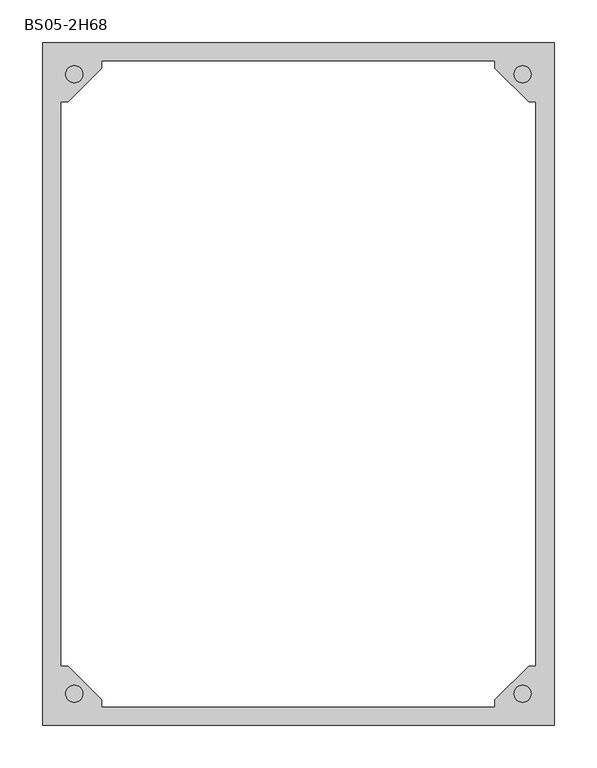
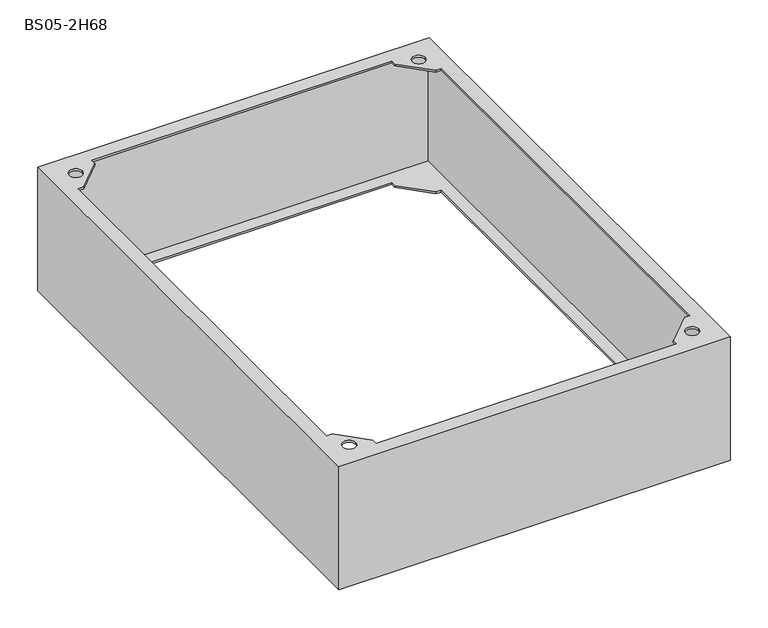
"""IFC4 building model written with IfcOpenShell, lengths in millimetres: proxy geometry, Цоколь для напольных шкафов : BS05-2H68."""

from ifc_helpers import new_model, si_unit, frame, origin, place, context, project, spatial, polyline, circle_curve, source, transform, mapped, element, save
from ifc_brep_helpers import plane_surface, revolved_surface, advanced_brep


def bs05_2h68_96ca8588(model_context):
    return source(origin(), model_context, "Body", "AdvancedBrep", [
        advanced_brep(
        [(300.0, -400.0, 200.0), (300.0, -400.0, 197.0), (300.0, -400.0, 3.0), (300.0, -400.0, 0.0), (300.0, 400.0, 0.0), (300.0, 400.0, 3.0), (300.0, 400.0, 197.0), (300.0, 400.0, 200.0), (278.0, 330.0, 0.0), (278.0, -330.0, 0.0), (278.0, -330.0, 3.0), (278.0, 330.0, 3.0), (297.0, 397.0, 197.0), (297.0, 397.0, 3.0), (297.0, -397.0, 3.0), (297.0, -397.0, 197.0), (278.0, 330.0, 197.0), (278.0, -330.0, 197.0), (278.0, -330.0, 200.0), (278.0, 330.0, 200.0), (-300.0, -400.0, 200.0), (-300.0, -400.0, 197.0), (-300.0, -400.0, 3.0), (-300.0, -400.0, 0.0), (230.0, -378.0, 0.0), (-230.0, -378.0, 0.0), (-230.0, -378.0, 3.0), (230.0, -378.0, 3.0), (-297.0, -397.0, 3.0), (-297.0, -397.0, 197.0), (230.0, -378.0, 197.0), (-230.0, -378.0, 197.0), (-230.0, -378.0, 200.0), (230.0, -378.0, 200.0), (-300.0, 400.0, 200.0), (-300.0, 400.0, 197.0), (-300.0, 400.0, 3.0), (-300.0, 400.0, 0.0), (-278.0, -330.0, 0.0), (-278.0, 330.0, 0.0), (-278.0, 330.0, 3.0), (-278.0, -330.0, 3.0), (-297.0, 397.0, 3.0), (-297.0, 397.0, 197.0), (-278.0, -330.0, 197.0), (-278.0, 330.0, 197.0), (-278.0, 330.0, 200.0), (-278.0, -330.0, 200.0), (-230.0, -370.0, 200.0), (-270.0, -330.0, 200.0), (-270.0, 330.0, 200.0), (-230.0, 370.0, 200.0), (-230.0, 378.0, 200.0), (230.0, 378.0, 200.0), (230.0, 370.0, 200.0), (270.0, 330.0, 200.0), (270.0, -330.0, 200.0), (230.0, -370.0, 200.0), (-252.9289322, -362.9289322, 200.0), (-272.9289322, -362.9289322, 200.0), (272.9289322, -362.9289322, 200.0), (252.9289322, -362.9289322, 200.0), (-252.9289322, 362.9289322, 200.0), (-272.9289322, 362.9289322, 200.0), (272.9289322, 362.9289322, 200.0), (252.9289322, 362.9289322, 200.0), (270.0, 330.0, 0.0), (230.0, 370.0, 0.0), (230.0, 378.0, 0.0), (-230.0, 378.0, 0.0), (-230.0, 370.0, 0.0), (-270.0, 330.0, 0.0), (-270.0, -330.0, 0.0), (-230.0, -370.0, 0.0), (230.0, -370.0, 0.0), (270.0, -330.0, 0.0), (230.0, 378.0, 3.0), (-230.0, 378.0, 3.0), (270.0, -330.0, 3.0), (230.0, -370.0, 3.0), (-230.0, -370.0, 3.0), (-270.0, -330.0, 3.0), (-270.0, 330.0, 3.0), (-230.0, 370.0, 3.0), (230.0, 370.0, 3.0), (270.0, 330.0, 3.0), (-270.0, -330.0, 197.0), (-230.0, -370.0, 197.0), (230.0, -370.0, 197.0), (270.0, -330.0, 197.0), (270.0, 330.0, 197.0), (230.0, 370.0, 197.0), (230.0, 378.0, 197.0), (-230.0, 378.0, 197.0), (-230.0, 370.0, 197.0), (-270.0, 330.0, 197.0), (-252.9289322, -362.9289322, 197.0), (-272.9289322, -362.9289322, 197.0), (272.9289322, -362.9289322, 197.0), (252.9289322, -362.9289322, 197.0), (-252.9289322, 362.9289322, 197.0), (-272.9289322, 362.9289322, 197.0), (272.9289322, 362.9289322, 197.0), (252.9289322, 362.9289322, 197.0)],
        [
            (0, 1),
            (1, 2),
            (2, 3),
            (3, 4),
            (4, 5),
            (5, 6),
            (6, 7),
            (7, 0),
            (8, 9),
            (9, 10),
            (10, 11),
            (11, 8),
            (12, 13),
            (13, 14),
            (14, 15),
            (15, 12),
            (16, 17),
            (17, 18),
            (18, 19),
            (19, 16),
            (0, 20),
            (20, 21),
            (21, 22),
            (22, 23),
            (23, 3),
            (24, 25),
            (25, 26),
            (26, 27),
            (27, 24),
            (14, 28),
            (28, 29),
            (29, 15),
            (30, 31),
            (31, 32),
            (32, 33),
            (33, 30),
            (20, 34),
            (34, 35),
            (35, 36),
            (36, 37),
            (37, 23),
            (38, 39),
            (39, 40),
            (40, 41),
            (41, 38),
            (28, 42),
            (42, 43),
            (43, 29),
            (44, 45),
            (45, 46),
            (46, 47),
            (47, 44),
            (7, 34),
            (48, 49),
            (49, 47),
            (46, 50),
            (50, 51),
            (51, 52),
            (52, 53),
            (53, 54),
            (54, 55),
            (55, 19),
            (18, 56),
            (56, 57),
            (57, 33),
            (32, 48),
            (58, 59, circle_curve(frame((-262.9289322, -362.9289322, 200.0), z_axis=(0.0, 0.0, -1.0), x_axis=(-1.0, 0.0, 0.0)), 10.0)),
            (59, 58, circle_curve(frame((-262.9289322, -362.9289322, 200.0), z_axis=(0.0, 0.0, -1.0), x_axis=(-1.0, 0.0, 0.0)), 10.0)),
            (60, 61, circle_curve(frame((262.9289322, -362.9289322, 200.0), z_axis=(0.0, 0.0, -1.0), x_axis=(-1.0, 0.0, 0.0)), 10.0)),
            (61, 60, circle_curve(frame((262.9289322, -362.9289322, 200.0), z_axis=(0.0, 0.0, -1.0), x_axis=(-1.0, 0.0, 0.0)), 10.0)),
            (62, 63, circle_curve(frame((-262.9289322, 362.9289322, 200.0), z_axis=(0.0, 0.0, -1.0), x_axis=(-1.0, 0.0, 0.0)), 10.0)),
            (63, 62, circle_curve(frame((-262.9289322, 362.9289322, 200.0), z_axis=(0.0, 0.0, -1.0), x_axis=(-1.0, 0.0, 0.0)), 10.0)),
            (64, 65, circle_curve(frame((262.9289322, 362.9289322, 200.0), z_axis=(0.0, 0.0, -1.0), x_axis=(-1.0, 0.0, 0.0)), 10.0)),
            (65, 64, circle_curve(frame((262.9289322, 362.9289322, 200.0), z_axis=(0.0, 0.0, -1.0), x_axis=(-1.0, 0.0, 0.0)), 10.0)),
            (4, 37),
            (8, 66),
            (66, 67),
            (67, 68),
            (68, 69),
            (69, 70),
            (70, 71),
            (71, 39),
            (38, 72),
            (72, 73),
            (73, 25),
            (24, 74),
            (74, 75),
            (75, 9),
            (68, 76),
            (76, 77),
            (77, 69),
            (13, 42),
            (10, 78),
            (78, 79),
            (79, 27),
            (26, 80),
            (80, 81),
            (81, 41),
            (40, 82),
            (82, 83),
            (83, 77),
            (76, 84),
            (84, 85),
            (85, 11),
            (12, 43),
            (86, 87),
            (87, 31),
            (30, 88),
            (88, 89),
            (89, 17),
            (16, 90),
            (90, 91),
            (91, 92),
            (92, 93),
            (93, 94),
            (94, 95),
            (95, 45),
            (44, 86),
            (96, 97, circle_curve(frame((-262.9289322, -362.9289322, 197.0), z_axis=(0.0, 0.0, 1.0), x_axis=(-1.0, 0.0, 0.0)), 10.0)),
            (97, 96, circle_curve(frame((-262.9289322, -362.9289322, 197.0), z_axis=(0.0, 0.0, 1.0), x_axis=(-1.0, 0.0, 0.0)), 10.0)),
            (98, 99, circle_curve(frame((262.9289322, -362.9289322, 197.0), z_axis=(0.0, 0.0, 1.0), x_axis=(-1.0, 0.0, 0.0)), 10.0)),
            (99, 98, circle_curve(frame((262.9289322, -362.9289322, 197.0), z_axis=(0.0, 0.0, 1.0), x_axis=(-1.0, 0.0, 0.0)), 10.0)),
            (100, 101, circle_curve(frame((-262.9289322, 362.9289322, 197.0), z_axis=(0.0, 0.0, 1.0), x_axis=(-1.0, 0.0, 0.0)), 10.0)),
            (101, 100, circle_curve(frame((-262.9289322, 362.9289322, 197.0), z_axis=(0.0, 0.0, 1.0), x_axis=(-1.0, 0.0, 0.0)), 10.0)),
            (102, 103, circle_curve(frame((262.9289322, 362.9289322, 197.0), z_axis=(0.0, 0.0, 1.0), x_axis=(-1.0, 0.0, 0.0)), 10.0)),
            (103, 102, circle_curve(frame((262.9289322, 362.9289322, 197.0), z_axis=(0.0, 0.0, 1.0), x_axis=(-1.0, 0.0, 0.0)), 10.0)),
            (52, 93),
            (92, 53),
            (87, 48),
            (86, 49),
            (89, 56),
            (88, 57),
            (95, 50),
            (94, 51),
            (91, 54),
            (90, 55),
            (58, 96),
            (97, 59),
            (60, 98),
            (99, 61),
            (62, 100),
            (101, 63),
            (64, 102),
            (103, 65),
            (73, 80),
            (72, 81),
            (75, 78),
            (74, 79),
            (71, 82),
            (70, 83),
            (67, 84),
            (66, 85),
        ],
        [
            plane_surface(frame((300.0, 400.0, 200.0), z_axis=(1.0, 0.0, 0.0), x_axis=(0.0, -1.0, 0.0))),
            plane_surface(frame((278.0, 378.0, 0.0), z_axis=(-1.0, 0.0, 0.0), x_axis=(0.0, -1.0, 0.0))),
            plane_surface(frame((297.0, 397.0, 3.0), z_axis=(-1.0, 0.0, 0.0), x_axis=(0.0, -1.0, 0.0))),
            plane_surface(frame((278.0, 378.0, 197.0), z_axis=(-1.0, 0.0, 0.0), x_axis=(0.0, -1.0, 0.0))),
            plane_surface(frame((300.0, -400.0, 200.0), z_axis=(0.0, -1.0, 0.0), x_axis=(-1.0, 0.0, 0.0))),
            plane_surface(frame((278.0, -378.0, 0.0), z_axis=(0.0, 1.0, 0.0), x_axis=(-1.0, 0.0, 0.0))),
            plane_surface(frame((297.0, -397.0, 3.0), z_axis=(0.0, 1.0, 0.0), x_axis=(-1.0, 0.0, 0.0))),
            plane_surface(frame((278.0, -378.0, 197.0), z_axis=(0.0, 1.0, 0.0), x_axis=(-1.0, 0.0, 0.0))),
            plane_surface(frame((-300.0, -400.0, 200.0), z_axis=(-1.0, 0.0, 0.0), x_axis=(0.0, 1.0, 0.0))),
            plane_surface(frame((-278.0, -378.0, 0.0), z_axis=(1.0, 0.0, 0.0), x_axis=(0.0, 1.0, 0.0))),
            plane_surface(frame((-297.0, -397.0, 3.0), z_axis=(1.0, 0.0, 0.0), x_axis=(0.0, 1.0, 0.0))),
            plane_surface(frame((-278.0, -378.0, 197.0), z_axis=(1.0, 0.0, 0.0), x_axis=(0.0, 1.0, 0.0))),
            plane_surface(frame((-278.0, 378.0, 200.0), z_axis=(0.0, 0.0, 1.0), x_axis=(1.0, 0.0, 0.0))),
            plane_surface(frame((-300.0, 400.0, 200.0), z_axis=(0.0, 1.0, 0.0), x_axis=(1.0, 0.0, 0.0))),
            plane_surface(frame((-300.0, 400.0, 0.0), z_axis=(0.0, 0.0, -1.0), x_axis=(1.0, 0.0, 0.0))),
            plane_surface(frame((-278.0, 378.0, 0.0), z_axis=(0.0, -1.0, 0.0), x_axis=(1.0, 0.0, 0.0))),
            plane_surface(frame((-278.0, 378.0, 3.0), z_axis=(0.0, 0.0, 1.0), x_axis=(1.0, 0.0, 0.0))),
            plane_surface(frame((-297.0, 397.0, 3.0), z_axis=(0.0, -1.0, 0.0), x_axis=(1.0, 0.0, 0.0))),
            plane_surface(frame((-297.0, 397.0, 197.0), z_axis=(0.0, 0.0, -1.0), x_axis=(1.0, 0.0, 0.0))),
            plane_surface(frame((-278.0, 378.0, 197.0), z_axis=(0.0, -1.0, 0.0), x_axis=(1.0, 0.0, 0.0))),
            plane_surface(frame((-230.0, -400.0, 200.0), z_axis=(1.0, 0.0, 0.0), x_axis=(0.0, 0.0, -1.0))),
            plane_surface(frame((-230.0, -370.0, 200.0), z_axis=(0.7071067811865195, 0.7071067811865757, 0.0), x_axis=(0.0, 0.0, -1.0))),
            plane_surface(frame((-270.0, -330.0, 200.0), z_axis=(0.0, 1.0, 0.0), x_axis=(0.0, 0.0, -1.0))),
            plane_surface(frame((300.0, -330.0, 200.0), z_axis=(0.0, 1.0, 0.0), x_axis=(0.0, 0.0, -1.0))),
            plane_surface(frame((270.0, -330.0, 200.0), z_axis=(-0.7071067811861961, 0.707106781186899, 0.0), x_axis=(0.0, 0.0, -1.0))),
            plane_surface(frame((230.0, -370.0, 200.0), z_axis=(-1.0, 0.0, 0.0), x_axis=(0.0, 0.0, -1.0))),
            plane_surface(frame((-300.0, 330.0, 200.0), z_axis=(0.0, -1.0, 0.0), x_axis=(0.0, 0.0, -1.0))),
            plane_surface(frame((-270.0, 330.0, 200.0), z_axis=(0.7071067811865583, -0.7071067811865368, 0.0), x_axis=(0.0, 0.0, -1.0))),
            plane_surface(frame((-230.0, 370.0, 200.0), z_axis=(1.0, 0.0, 0.0), x_axis=(0.0, 0.0, -1.0))),
            plane_surface(frame((230.0, 400.0, 200.0), z_axis=(-1.0, 0.0, 0.0), x_axis=(0.0, 0.0, -1.0))),
            plane_surface(frame((230.0, 370.0, 200.0), z_axis=(-0.7071067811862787, -0.7071067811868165, 0.0), x_axis=(0.0, 0.0, -1.0))),
            plane_surface(frame((270.0, 330.0, 200.0), z_axis=(0.0, -1.0, 0.0), x_axis=(0.0, 0.0, -1.0))),
            revolved_surface(polyline([(-272.9289322, -362.9289322, 197.0), (-272.9289322, -362.9289322, 200.0)]), (-262.9289322, -362.9289322, 200.0), (0.0, 0.0, -1.0)),
            revolved_surface(polyline([(252.92893220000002, -362.9289322, 197.0), (252.92893220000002, -362.9289322, 200.0)]), (262.9289322, -362.9289322, 200.0), (0.0, 0.0, -1.0)),
            revolved_surface(polyline([(-272.9289322, 362.9289322, 197.0), (-272.9289322, 362.9289322, 200.0)]), (-262.9289322, 362.9289322, 200.0), (0.0, 0.0, -1.0)),
            revolved_surface(polyline([(252.92893220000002, 362.9289322, 197.0), (252.92893220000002, 362.9289322, 200.0)]), (262.9289322, 362.9289322, 200.0), (0.0, 0.0, -1.0)),
            plane_surface(frame((-230.0, -400.0, 3.0), z_axis=(1.0, 0.0, 0.0), x_axis=(0.0, 0.0, -1.0))),
            plane_surface(frame((-230.0, -370.0, 3.0), z_axis=(0.7071067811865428, 0.7071067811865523, 0.0), x_axis=(0.0, 0.0, -1.0))),
            plane_surface(frame((-270.0, -330.0, 3.0), z_axis=(0.0, 1.0, 0.0), x_axis=(0.0, 0.0, -1.0))),
            plane_surface(frame((300.0, -330.0, 3.0), z_axis=(0.0, 1.0, 0.0), x_axis=(0.0, 0.0, -1.0))),
            plane_surface(frame((270.0, -330.0, 3.0), z_axis=(-0.7071067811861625, 0.7071067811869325, 0.0), x_axis=(0.0, 0.0, -1.0))),
            plane_surface(frame((230.0, -370.0, 3.0), z_axis=(-1.0, 0.0, 0.0), x_axis=(0.0, 0.0, -1.0))),
            plane_surface(frame((-300.0, 330.0, 3.0), z_axis=(0.0, -1.0, 0.0), x_axis=(0.0, 0.0, -1.0))),
            plane_surface(frame((-270.0, 330.0, 3.0), z_axis=(0.7071067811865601, -0.7071067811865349, 0.0), x_axis=(0.0, 0.0, -1.0))),
            plane_surface(frame((-230.0, 370.0, 3.0), z_axis=(1.0, 0.0, 0.0), x_axis=(0.0, 0.0, -1.0))),
            plane_surface(frame((230.0, 400.0, 3.0), z_axis=(-1.0, 0.0, 0.0), x_axis=(0.0, 0.0, -1.0))),
            plane_surface(frame((230.0, 370.0, 3.0), z_axis=(-0.7071067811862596, -0.7071067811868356, 0.0), x_axis=(0.0, 0.0, -1.0))),
            plane_surface(frame((270.0, 330.0, 3.0), z_axis=(0.0, -1.0, 0.0), x_axis=(0.0, 0.0, -1.0))),
        ],
        [
            (0, [[1, 2, 3, 4, 5, 6, 7, 8]]),
            (1, [[9, 10, 11, 12]]),
            (2, [[13, 14, 15, 16]]),
            (3, [[17, 18, 19, 20]]),
            (4, [[-1, 21, 22, 23, 24, 25, -3, -2]]),
            (5, [[26, 27, 28, 29]]),
            (6, [[-15, 30, 31, 32]]),
            (7, [[33, 34, 35, 36]]),
            (8, [[-22, 37, 38, 39, 40, 41, -24, -23]]),
            (9, [[42, 43, 44, 45]]),
            (10, [[-31, 46, 47, 48]]),
            (11, [[49, 50, 51, 52]]),
            (12, [[-8, 53, -37, -21], [54, 55, -51, 56, 57, 58, 59, 60, 61, 62, -19, 63, 64, 65, -35, 66], [67, 68], [69, 70], [71, 72], [73, 74]]),
            (13, [[-38, -53, -7, -6, -5, 75, -40, -39]]),
            (14, [[-4, -25, -41, -75], [-9, 76, 77, 78, 79, 80, 81, 82, -42, 83, 84, 85, -26, 86, 87, 88]]),
            (15, [[-79, 89, 90, 91]]),
            (16, [[-14, 92, -46, -30], [-11, 93, 94, 95, -28, 96, 97, 98, -44, 99, 100, 101, -90, 102, 103, 104]]),
            (17, [[-92, -13, 105, -47]]),
            (18, [[-32, -48, -105, -16], [106, 107, -33, 108, 109, 110, -17, 111, 112, 113, 114, 115, 116, 117, -49, 118], [119, 120], [121, 122], [123, 124], [125, 126]]),
            (19, [[-59, 127, -114, 128]]),
            (20, [[129, -66, -34, -107]]),
            (21, [[-54, -129, -106, 130]]),
            (22, [[-130, -118, -52, -55]]),
            (23, [[131, -63, -18, -110]]),
            (24, [[-64, -131, -109, 132]]),
            (25, [[-132, -108, -36, -65]]),
            (26, [[133, -56, -50, -117]]),
            (27, [[-57, -133, -116, 134]]),
            (28, [[-134, -115, -127, -58]]),
            (29, [[135, -60, -128, -113]]),
            (30, [[-61, -135, -112, 136]]),
            (31, [[-136, -111, -20, -62]]),
            (32, [[-67, 137, -120, 138]]),
            (32, [[-68, -138, -119, -137]]),
            (33, [[-69, 139, -122, 140]]),
            (33, [[-70, -140, -121, -139]]),
            (34, [[-71, 141, -124, 142]]),
            (34, [[-72, -142, -123, -141]]),
            (35, [[-73, 143, -126, 144]]),
            (35, [[-74, -144, -125, -143]]),
            (36, [[145, -96, -27, -85]]),
            (37, [[-97, -145, -84, 146]]),
            (38, [[-146, -83, -45, -98]]),
            (39, [[147, -93, -10, -88]]),
            (40, [[-94, -147, -87, 148]]),
            (41, [[-148, -86, -29, -95]]),
            (42, [[149, -99, -43, -82]]),
            (43, [[-100, -149, -81, 150]]),
            (44, [[-150, -80, -91, -101]]),
            (45, [[151, -102, -89, -78]]),
            (46, [[-103, -151, -77, 152]]),
            (47, [[-152, -76, -12, -104]]),
        ],
    ),
    ])


if __name__ == "__main__":
    model = new_model("IFC4")
    model_context = context("Model", 3, world=origin())
    ifc_project = project(units=[si_unit("LENGTHUNIT", "METRE", prefix="MILLI")], contexts=[model_context])
    site = spatial("IfcSite", under=ifc_project)
    building = spatial("IfcBuilding", under=site)
    placement = place(None, origin())
    bs05_2h68_shape = bs05_2h68_96ca8588(model_context)
    element("IfcBuildingElementProxy", 1, Name="Цоколь для напольных шкафов : BS05-2H68", ObjectType="Цоколь для напольных шкафов : BS05-2H68", at=placement, inside=building, context=model_context, shape_type="MappedRepresentation", body=[
        mapped(bs05_2h68_shape, transform((0.0, 0.0, 0.0), x_axis=(1.0, 0.0, 0.0), y_axis=(0.0, 1.0, 0.0), z_axis=(0.0, 0.0, 1.0))),
    ])
    save(model, "model.ifc")
